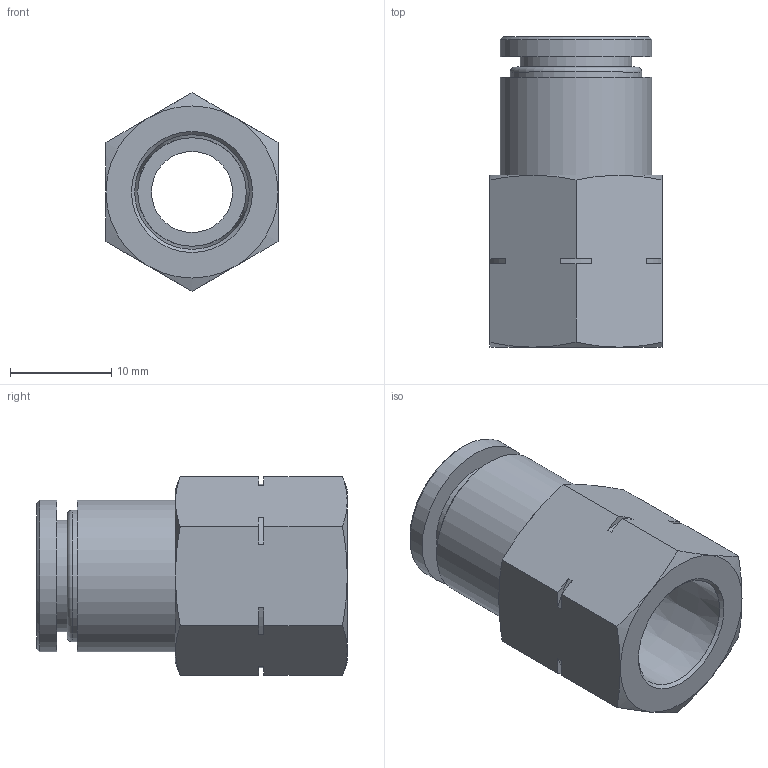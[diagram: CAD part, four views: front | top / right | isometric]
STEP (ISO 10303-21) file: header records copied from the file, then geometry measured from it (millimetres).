
FILE_DESCRIPTION(/* description */ (''),/* implementation_level */ '2;1');
FILE_NAME(/* name */ 'LXH14 0010 N2.stp',/* time_stamp */ '2026-04-28T15:02:51+02:00',/* author */ ('freju'),/* organization */ (''),/* preprocessor_version */ 'ST-DEVELOPER v20.1',/* originating_system */ 'Autodesk Inventor 2026',/* authorisation */ '');
FILE_SCHEMA (('AUTOMOTIVE_DESIGN { 1 0 10303 214 3 1 1 }'));
Length unit declared in the file: millimetre
Products named in the file (1): LXH14 0010 N2
Bounding box: 17 x 30.7 x 19.63 mm (x, y, z)
Volume: 3936.2 mm3; surface area: 3153.4 mm2
Topology: 1 solids, 1 shells, 56 faces, 129 edges, 82 vertices
Faces by surface type: plane 27, cone 15, cylinder 13, torus 1
Full cylindrical faces by diameter (mm): 8 x1, 10 x1, 10.719 x1, 11 x1, 13 x1, 15 x2
Entity records: 1607 total; most frequent: CARTESIAN_POINT 316, DIRECTION 266, ORIENTED_EDGE 258, EDGE_CURVE 129, AXIS2_PLACEMENT_3D 104, VERTEX_POINT 82, EDGE_LOOP 65, LINE 58
